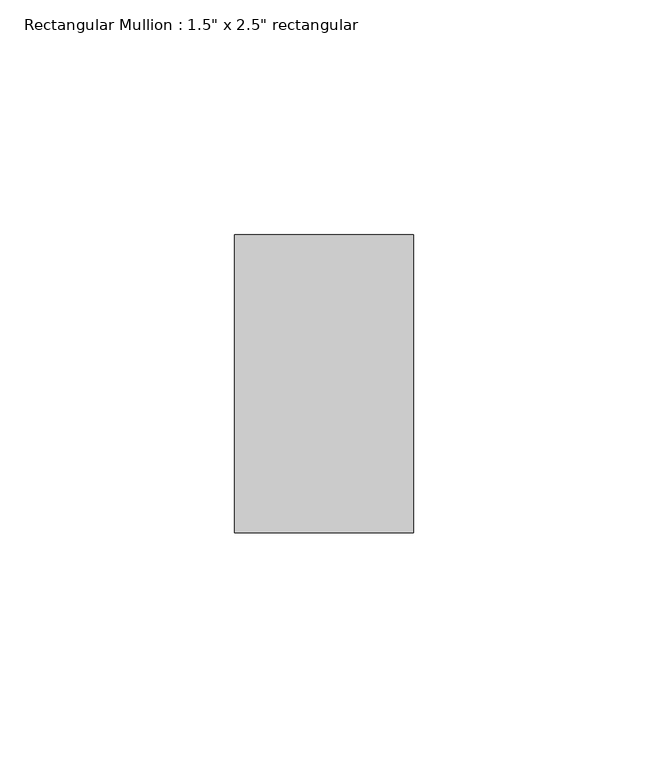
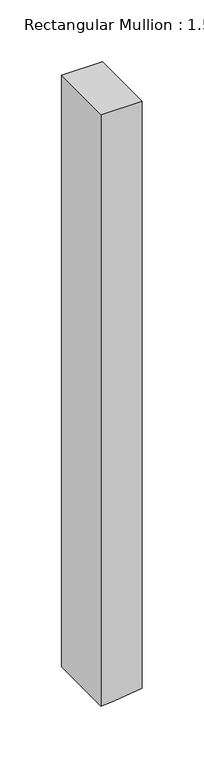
"""IFC4 building model written with IfcOpenShell, lengths in millimetres: member geometry."""

from ifc_helpers import new_model, si_unit, frame, origin, place, context, project, spatial, polyline, outline, extrude, source, transform, mapped, element, save


def member_d5849883(model_context):
    return source(origin(), model_context, "Body", "SweptSolid", [
        extrude(outline(polyline([(0.0, 19.05), (0.0, -19.05), (-582.915987, -19.05), (-581.8917443, -6.3491223), (-578.8343173, 19.05), (0.0, 19.05)])), frame((0.0, -31.75, 0.0), z_axis=(0.0, 1.0, 0.0), x_axis=(0.0, 0.0, 1.0)), (0.0, 0.0, 1.0), 63.5),
    ])


if __name__ == "__main__":
    model = new_model("IFC4")
    model_context = context("Model", 3, world=origin())
    ifc_project = project(units=[si_unit("LENGTHUNIT", "METRE", prefix="MILLI")], contexts=[model_context])
    site = spatial("IfcSite", under=ifc_project)
    building = spatial("IfcBuilding", under=site)
    placement = place(None, origin())
    member_shape = member_d5849883(model_context)
    element("IfcMember", 1, ObjectType="Rectangular Mullion : 1.5\" x 2.5\" rectangular", at=placement, inside=building, context=model_context, shape_type="MappedRepresentation", body=[
        mapped(member_shape, transform((0.0, 0.0, 0.0), x_axis=(1.0, 0.0, 0.0), y_axis=(0.0, 1.0, 0.0), z_axis=(0.0, 0.0, 1.0))),
    ])
    save(model, "model.ifc")
